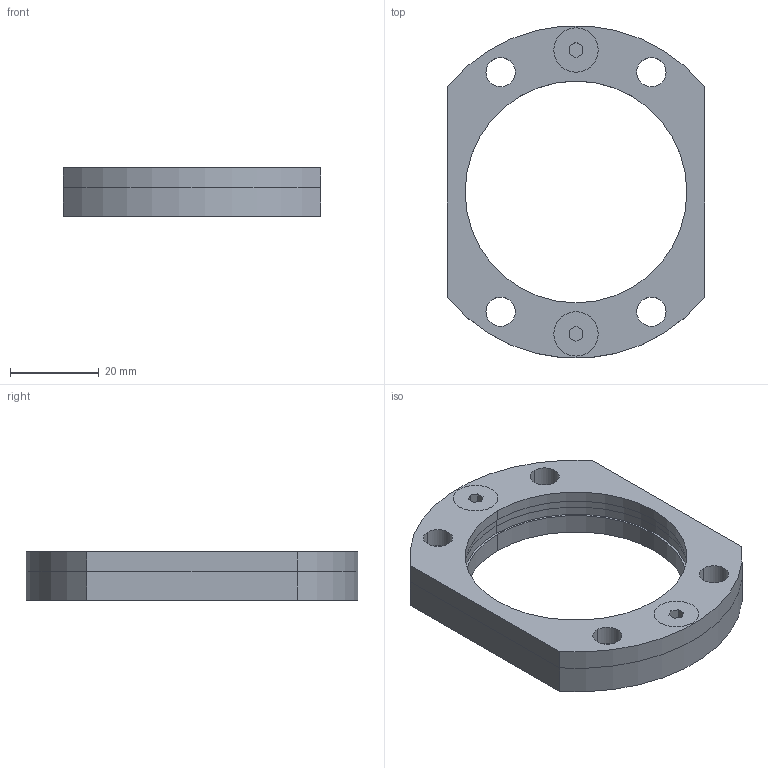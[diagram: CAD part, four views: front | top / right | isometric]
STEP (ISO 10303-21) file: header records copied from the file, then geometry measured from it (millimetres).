
FILE_DESCRIPTION(/* description */ (''),/* implementation_level */ '2;1');
FILE_NAME(/* name */ '3d_fm-50_03758_r00.stp',/* time_stamp */ '2011-01-10T14:15:37+09:00',/* author */ ('MISUMI'),/* organization */ (''),/* preprocessor_version */ 'ST-DEVELOPER v11',/* originating_system */ 'UGS - NX 5.0',/* authorisation */ '');
FILE_SCHEMA (('CONFIG_CONTROL_DESIGN'));
Length unit declared in the file: millimetre
Products named in the file (1): 3d_fm-50_03758_r00
Bounding box: 58 x 74.76 x 11 mm (x, y, z)
Volume: 19009.2 mm3; surface area: 13048.9 mm2
Topology: 4 solids, 4 shells, 80 faces, 192 edges, 124 vertices
Faces by surface type: cylinder 40, plane 28, cone 12
Entity records: 2488 total; most frequent: DIRECTION 446, CARTESIAN_POINT 397, ORIENTED_EDGE 384, EDGE_CURVE 192, AXIS2_PLACEMENT_3D 173, VERTEX_POINT 124, EDGE_LOOP 112, LINE 100
